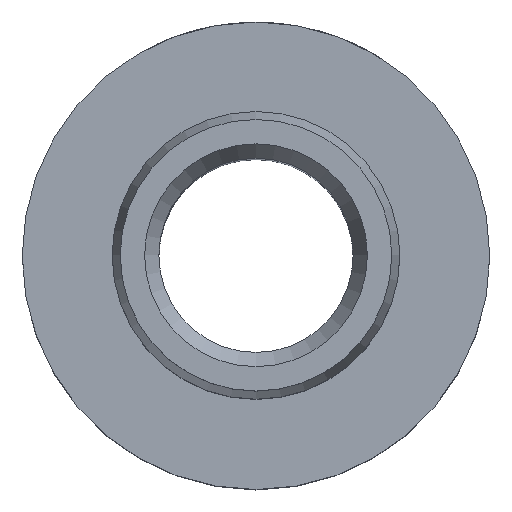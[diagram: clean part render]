
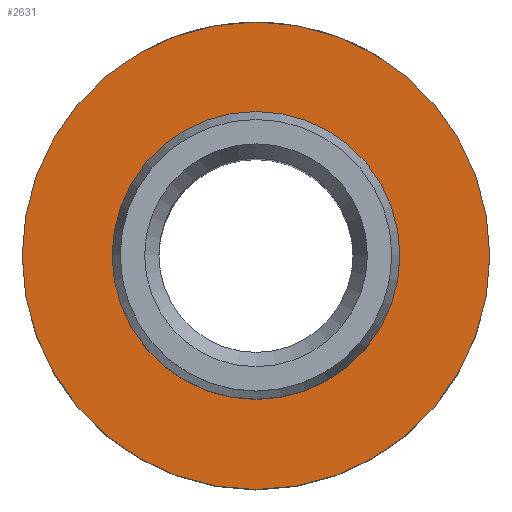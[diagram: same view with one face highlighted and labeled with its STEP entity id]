
A CAD part, top view. The second image highlights one B-rep face of the part: STEP entity #2631.
In plain terms, the highlighted planar face has unit normal (0, 0, 1).
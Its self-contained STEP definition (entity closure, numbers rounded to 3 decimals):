
#57=PLANE('',#2811);
#143=CIRCLE('',#2809,7.25);
#144=CIRCLE('',#2810,7.25);
#145=CIRCLE('',#2812,13.);
#146=CIRCLE('',#2813,13.);
#214=FACE_BOUND('',#546,.T.);
#381=FACE_OUTER_BOUND('',#545,.T.);
#545=EDGE_LOOP('',(#2298,#2299));
#546=EDGE_LOOP('',(#2300,#2301));
#1214=VERTEX_POINT('',#5997);
#1215=VERTEX_POINT('',#5998);
#1216=VERTEX_POINT('',#6003);
#1217=VERTEX_POINT('',#6004);
#1591=EDGE_CURVE('',#1214,#1215,#143,.T.);
#1592=EDGE_CURVE('',#1215,#1214,#144,.T.);
#1594=EDGE_CURVE('',#1216,#1217,#145,.T.);
#1595=EDGE_CURVE('',#1217,#1216,#146,.T.);
#2298=ORIENTED_EDGE('',*,*,#1594,.F.);
#2299=ORIENTED_EDGE('',*,*,#1595,.F.);
#2300=ORIENTED_EDGE('',*,*,#1591,.T.);
#2301=ORIENTED_EDGE('',*,*,#1592,.T.);
#2631=ADVANCED_FACE('',(#381,#214),#57,.T.);
#2809=AXIS2_PLACEMENT_3D('',#5999,#3275,#3276);
#2810=AXIS2_PLACEMENT_3D('',#6000,#3277,#3278);
#2811=AXIS2_PLACEMENT_3D('',#6002,#3280,#3281);
#2812=AXIS2_PLACEMENT_3D('',#6005,#3282,#3283);
#2813=AXIS2_PLACEMENT_3D('',#6006,#3284,#3285);
#3275=DIRECTION('center_axis',(0.,0.,-1.));
#3276=DIRECTION('ref_axis',(1.,0.,0.));
#3277=DIRECTION('center_axis',(0.,0.,-1.));
#3278=DIRECTION('ref_axis',(1.,0.,0.));
#3280=DIRECTION('center_axis',(0.,0.,1.));
#3281=DIRECTION('ref_axis',(1.,0.,0.));
#3282=DIRECTION('center_axis',(0.,0.,-1.));
#3283=DIRECTION('ref_axis',(1.,0.,0.));
#3284=DIRECTION('center_axis',(0.,0.,-1.));
#3285=DIRECTION('ref_axis',(1.,0.,0.));
#5997=CARTESIAN_POINT('',(0.,7.25,30.5));
#5998=CARTESIAN_POINT('',(0.,-7.25,30.5));
#5999=CARTESIAN_POINT('Origin',(0.,0.,30.5));
#6000=CARTESIAN_POINT('Origin',(0.,0.,30.5));
#6002=CARTESIAN_POINT('Origin',(0.,13.,30.5));
#6003=CARTESIAN_POINT('',(0.,13.,30.5));
#6004=CARTESIAN_POINT('',(0.,-13.,30.5));
#6005=CARTESIAN_POINT('Origin',(0.,0.,30.5));
#6006=CARTESIAN_POINT('Origin',(0.,0.,30.5));
